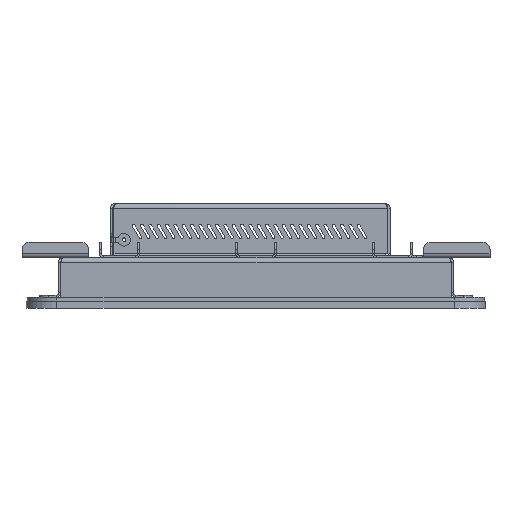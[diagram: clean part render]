
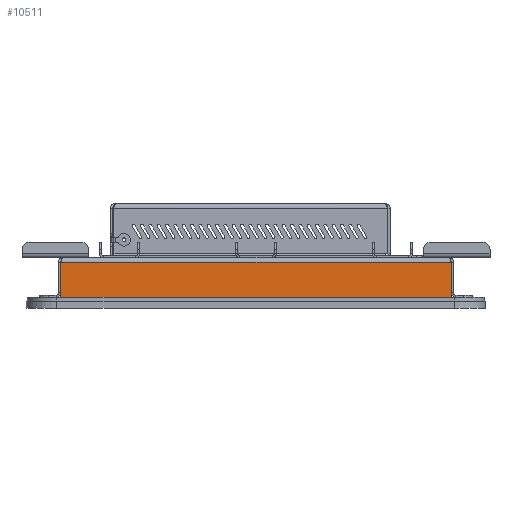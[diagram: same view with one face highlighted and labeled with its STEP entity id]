
A CAD part, left-side view. The second image highlights one B-rep face of the part: STEP entity #10511.
In plain terms, the highlighted planar face has unit normal (-1, 0, 0).
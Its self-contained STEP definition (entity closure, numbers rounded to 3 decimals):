
#10511=ADVANCED_FACE('',(#39827),#39829,.T.);
#39827=FACE_BOUND('',#39828,.T.);
#39828=EDGE_LOOP('',(#63251,#63252,#63253,#63254));
#39829=PLANE('',#39830);
#39830=AXIS2_PLACEMENT_3D('',#39831,#39832,#39833);
#39831=CARTESIAN_POINT('',(-344.53,-131.35,190.176));
#39832=DIRECTION('',(-1.,0.,0.));
#39833=DIRECTION('',(0.,0.,1.));
#63251=ORIENTED_EDGE('',*,*,#81041,.F.);
#63252=ORIENTED_EDGE('',*,*,#81042,.T.);
#63253=ORIENTED_EDGE('',*,*,#78306,.T.);
#63254=ORIENTED_EDGE('',*,*,#81043,.T.);
#78306=EDGE_CURVE('',#89232,#89230,#89233,.T.);
#81041=EDGE_CURVE('',#93753,#93754,#93755,.T.);
#81042=EDGE_CURVE('',#93753,#89232,#93756,.T.);
#81043=EDGE_CURVE('',#89230,#93754,#93757,.T.);
#89230=VERTEX_POINT('',#109508);
#89232=VERTEX_POINT('',#109523);
#89233=LINE('',#109524,#109525);
#93753=VERTEX_POINT('',#119969);
#93754=VERTEX_POINT('',#119970);
#93755=LINE('',#119971,#119972);
#93756=LINE('',#119974,#119975);
#93757=LINE('',#119977,#119978);
#109508=CARTESIAN_POINT('',(-344.53,-23.252,-7.45));
#109523=CARTESIAN_POINT('',(-344.53,-239.448,-7.45));
#109524=CARTESIAN_POINT('',(-344.53,-239.448,-7.45));
#109525=VECTOR('',#109526,1.);
#109526=DIRECTION('',(0.,1.,0.));
#119969=CARTESIAN_POINT('',(-344.53,-239.448,-26.95));
#119970=CARTESIAN_POINT('',(-344.53,-23.252,-26.95));
#119971=CARTESIAN_POINT('',(-344.53,-239.448,-26.95));
#119972=VECTOR('',#119973,1.);
#119973=DIRECTION('',(0.,1.,0.));
#119974=CARTESIAN_POINT('',(-344.53,-239.448,-26.95));
#119975=VECTOR('',#119976,1.);
#119976=DIRECTION('',(0.,0.,1.));
#119977=CARTESIAN_POINT('',(-344.53,-23.252,-7.45));
#119978=VECTOR('',#119979,1.);
#119979=DIRECTION('',(0.,0.,-1.));
